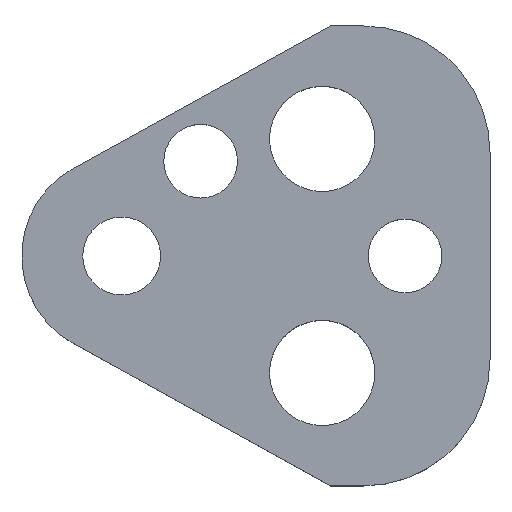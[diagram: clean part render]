
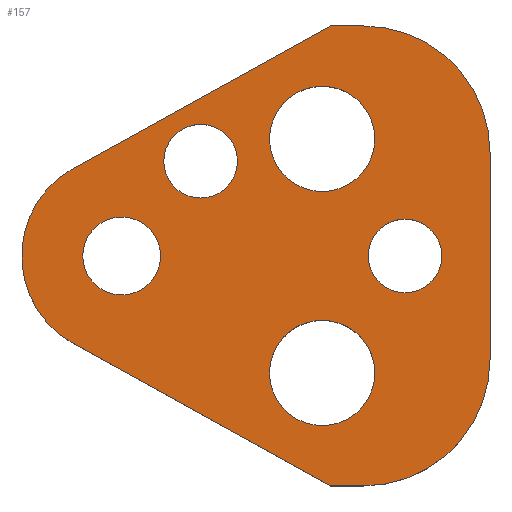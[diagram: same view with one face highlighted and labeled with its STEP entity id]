
A CAD part, top view. The second image highlights one B-rep face of the part: STEP entity #157.
In plain terms, the highlighted planar face has unit normal (0, 0, 1).
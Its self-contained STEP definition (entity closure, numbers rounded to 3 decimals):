
#103=FACE_BOUND('',#207,.T.);
#104=FACE_BOUND('',#208,.T.);
#105=FACE_BOUND('',#209,.T.);
#106=FACE_BOUND('',#210,.T.);
#107=FACE_BOUND('',#211,.T.);
#108=FACE_BOUND('',#212,.T.);
#122=CIRCLE('',#480,12.);
#124=CIRCLE('',#484,12.);
#127=CIRCLE('',#490,9.5);
#138=CIRCLE('',#503,5.);
#139=CIRCLE('',#504,5.);
#140=CIRCLE('',#505,3.5);
#141=CIRCLE('',#506,3.5);
#142=CIRCLE('',#507,5.);
#143=CIRCLE('',#508,5.);
#144=CIRCLE('',#509,3.5);
#145=CIRCLE('',#510,3.5);
#146=CIRCLE('',#511,3.7);
#147=CIRCLE('',#512,3.7);
#157=ADVANCED_FACE('',(#103,#104,#105,#106,#107,#108),#174,.T.);
#174=PLANE('',#513);
#207=EDGE_LOOP('',(#273,#274,#275,#276,#277,#278,#279,#280));
#208=EDGE_LOOP('',(#281,#282));
#209=EDGE_LOOP('',(#283,#284));
#210=EDGE_LOOP('',(#285,#286));
#211=EDGE_LOOP('',(#287,#288));
#212=EDGE_LOOP('',(#289,#290));
#273=ORIENTED_EDGE('',*,*,#368,.T.);
#274=ORIENTED_EDGE('',*,*,#372,.T.);
#275=ORIENTED_EDGE('',*,*,#375,.T.);
#276=ORIENTED_EDGE('',*,*,#378,.T.);
#277=ORIENTED_EDGE('',*,*,#381,.T.);
#278=ORIENTED_EDGE('',*,*,#384,.T.);
#279=ORIENTED_EDGE('',*,*,#387,.T.);
#280=ORIENTED_EDGE('',*,*,#390,.T.);
#281=ORIENTED_EDGE('',*,*,#401,.T.);
#282=ORIENTED_EDGE('',*,*,#402,.T.);
#283=ORIENTED_EDGE('',*,*,#403,.T.);
#284=ORIENTED_EDGE('',*,*,#404,.T.);
#285=ORIENTED_EDGE('',*,*,#405,.T.);
#286=ORIENTED_EDGE('',*,*,#406,.T.);
#287=ORIENTED_EDGE('',*,*,#407,.T.);
#288=ORIENTED_EDGE('',*,*,#408,.T.);
#289=ORIENTED_EDGE('',*,*,#409,.T.);
#290=ORIENTED_EDGE('',*,*,#410,.T.);
#332=VERTEX_POINT('',#649);
#333=VERTEX_POINT('',#651);
#336=VERTEX_POINT('',#658);
#338=VERTEX_POINT('',#664);
#340=VERTEX_POINT('',#670);
#342=VERTEX_POINT('',#676);
#344=VERTEX_POINT('',#682);
#346=VERTEX_POINT('',#688);
#357=VERTEX_POINT('',#717);
#358=VERTEX_POINT('',#718);
#359=VERTEX_POINT('',#721);
#360=VERTEX_POINT('',#722);
#361=VERTEX_POINT('',#725);
#362=VERTEX_POINT('',#726);
#363=VERTEX_POINT('',#729);
#364=VERTEX_POINT('',#730);
#365=VERTEX_POINT('',#733);
#366=VERTEX_POINT('',#734);
#368=EDGE_CURVE('',#333,#332,#422,.T.);
#372=EDGE_CURVE('',#332,#336,#426,.T.);
#375=EDGE_CURVE('',#336,#338,#122,.T.);
#378=EDGE_CURVE('',#338,#340,#430,.T.);
#381=EDGE_CURVE('',#340,#342,#124,.T.);
#384=EDGE_CURVE('',#342,#344,#434,.T.);
#387=EDGE_CURVE('',#344,#346,#437,.T.);
#390=EDGE_CURVE('',#346,#333,#127,.T.);
#401=EDGE_CURVE('',#357,#358,#138,.T.);
#402=EDGE_CURVE('',#358,#357,#139,.T.);
#403=EDGE_CURVE('',#359,#360,#140,.T.);
#404=EDGE_CURVE('',#360,#359,#141,.T.);
#405=EDGE_CURVE('',#361,#362,#142,.T.);
#406=EDGE_CURVE('',#362,#361,#143,.T.);
#407=EDGE_CURVE('',#363,#364,#144,.T.);
#408=EDGE_CURVE('',#364,#363,#145,.T.);
#409=EDGE_CURVE('',#365,#366,#146,.T.);
#410=EDGE_CURVE('',#366,#365,#147,.T.);
#422=LINE('',#650,#450);
#426=LINE('',#659,#454);
#430=LINE('',#671,#458);
#434=LINE('',#683,#462);
#437=LINE('',#689,#465);
#450=VECTOR('',#527,1.);
#454=VECTOR('',#533,1.);
#458=VECTOR('',#545,1.);
#462=VECTOR('',#557,1.);
#465=VECTOR('',#562,1.);
#480=AXIS2_PLACEMENT_3D('',#665,#538,#539);
#484=AXIS2_PLACEMENT_3D('',#677,#550,#551);
#490=AXIS2_PLACEMENT_3D('',#693,#568,#569);
#503=AXIS2_PLACEMENT_3D('',#716,#594,#595);
#504=AXIS2_PLACEMENT_3D('',#719,#596,#597);
#505=AXIS2_PLACEMENT_3D('',#720,#598,#599);
#506=AXIS2_PLACEMENT_3D('',#723,#600,#601);
#507=AXIS2_PLACEMENT_3D('',#724,#602,#603);
#508=AXIS2_PLACEMENT_3D('',#727,#604,#605);
#509=AXIS2_PLACEMENT_3D('',#728,#606,#607);
#510=AXIS2_PLACEMENT_3D('',#731,#608,#609);
#511=AXIS2_PLACEMENT_3D('',#732,#610,#611);
#512=AXIS2_PLACEMENT_3D('',#735,#612,#613);
#513=AXIS2_PLACEMENT_3D('',#736,#614,#615);
#527=DIRECTION('',(0.875,-0.485,0.));
#533=DIRECTION('',(1.,0.,0.));
#538=DIRECTION('',(0.,0.,1.));
#539=DIRECTION('',(-0.707,0.707,0.));
#545=DIRECTION('',(0.,1.,0.));
#550=DIRECTION('',(0.,0.,1.));
#551=DIRECTION('',(-0.707,-0.707,0.));
#557=DIRECTION('',(-1.,0.,0.));
#562=DIRECTION('',(-0.875,-0.485,0.));
#568=DIRECTION('',(0.,0.,1.));
#569=DIRECTION('',(1.,0.,0.));
#594=DIRECTION('',(0.,0.,-1.));
#595=DIRECTION('',(-1.,0.,0.));
#596=DIRECTION('',(0.,0.,-1.));
#597=DIRECTION('',(1.,0.,0.));
#598=DIRECTION('',(0.,0.,-1.));
#599=DIRECTION('',(-1.,0.,0.));
#600=DIRECTION('',(0.,0.,-1.));
#601=DIRECTION('',(1.,0.,0.));
#602=DIRECTION('',(0.,0.,-1.));
#603=DIRECTION('',(-1.,0.,0.));
#604=DIRECTION('',(0.,0.,-1.));
#605=DIRECTION('',(1.,0.,0.));
#606=DIRECTION('',(0.,0.,-1.));
#607=DIRECTION('',(-1.,0.,0.));
#608=DIRECTION('',(0.,0.,-1.));
#609=DIRECTION('',(1.,0.,0.));
#610=DIRECTION('',(0.,0.,-1.));
#611=DIRECTION('',(-1.,0.,0.));
#612=DIRECTION('',(0.,0.,-1.));
#613=DIRECTION('',(1.,0.,0.));
#614=DIRECTION('',(0.,0.,1.));
#615=DIRECTION('',(-0.875,0.485,0.));
#649=CARTESIAN_POINT('',(19.823,-21.85,5.));
#650=CARTESIAN_POINT('',(19.823,-21.85,5.));
#651=CARTESIAN_POINT('',(-4.606,-8.309,5.));
#658=CARTESIAN_POINT('',(23.,-21.85,5.));
#659=CARTESIAN_POINT('',(19.823,-21.85,5.));
#664=CARTESIAN_POINT('',(35.,-9.85,5.));
#665=CARTESIAN_POINT('',(23.,-9.85,5.));
#670=CARTESIAN_POINT('',(35.,9.85,5.));
#671=CARTESIAN_POINT('',(35.,9.85,5.));
#676=CARTESIAN_POINT('',(23.,21.85,5.));
#677=CARTESIAN_POINT('',(23.,9.85,5.));
#682=CARTESIAN_POINT('',(19.823,21.85,5.));
#683=CARTESIAN_POINT('',(19.823,21.85,5.));
#688=CARTESIAN_POINT('',(-4.606,8.309,5.));
#689=CARTESIAN_POINT('',(19.823,21.85,5.));
#693=CARTESIAN_POINT('',(0.,0.,5.));
#716=CARTESIAN_POINT('',(19.05,-11.12,5.));
#717=CARTESIAN_POINT('',(19.05,-6.12,5.));
#718=CARTESIAN_POINT('',(19.05,-16.12,5.));
#719=CARTESIAN_POINT('',(19.05,-11.12,5.));
#720=CARTESIAN_POINT('',(26.925,0.,5.));
#721=CARTESIAN_POINT('',(26.925,3.5,5.));
#722=CARTESIAN_POINT('',(26.925,-3.5,5.));
#723=CARTESIAN_POINT('',(26.925,0.,5.));
#724=CARTESIAN_POINT('',(19.05,11.12,5.));
#725=CARTESIAN_POINT('',(19.05,16.12,5.));
#726=CARTESIAN_POINT('',(19.05,6.12,5.));
#727=CARTESIAN_POINT('',(19.05,11.12,5.));
#728=CARTESIAN_POINT('',(7.5,9.,5.));
#729=CARTESIAN_POINT('',(7.5,12.5,5.));
#730=CARTESIAN_POINT('',(7.5,5.5,5.));
#731=CARTESIAN_POINT('',(7.5,9.,5.));
#732=CARTESIAN_POINT('',(0.,0.,5.));
#733=CARTESIAN_POINT('',(0.,3.7,5.));
#734=CARTESIAN_POINT('',(0.,-3.7,5.));
#735=CARTESIAN_POINT('',(0.,0.,5.));
#736=CARTESIAN_POINT('',(-4.606,-8.309,5.));
